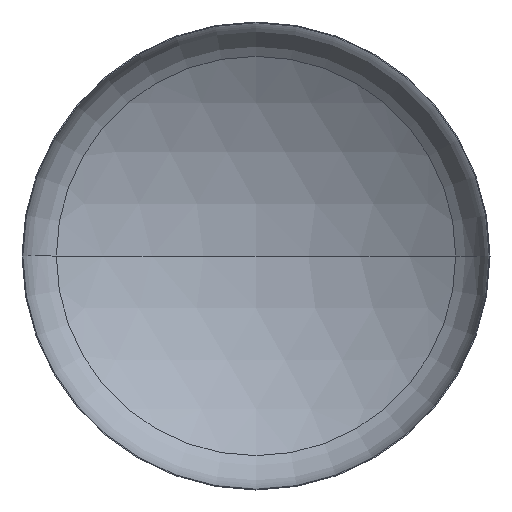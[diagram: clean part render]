
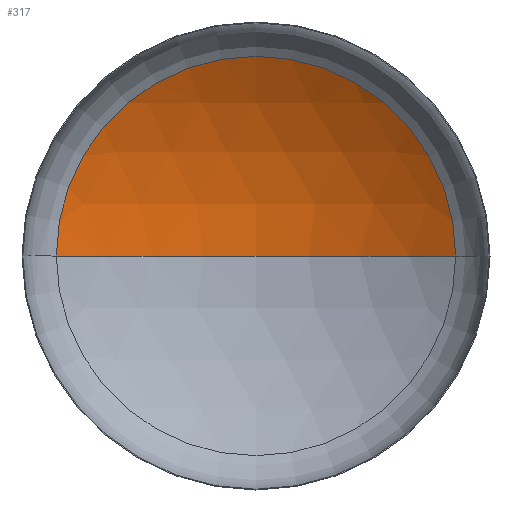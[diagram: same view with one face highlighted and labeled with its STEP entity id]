
A CAD part, front view. The second image highlights one B-rep face of the part: STEP entity #317.
In plain terms, the highlighted spherical face has radius 4400 mm.
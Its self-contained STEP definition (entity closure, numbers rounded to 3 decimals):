
#16 = CIRCLE ( 'NONE', #68, 4400. ) ;
#17 = AXIS2_PLACEMENT_3D ( 'NONE', #230, #58, #46 ) ;
#46 = DIRECTION ( 'NONE',  ( -1., 0., 0. ) ) ;
#54 = CARTESIAN_POINT ( 'NONE',  ( 0., -2977.193, 0. ) ) ;
#58 = DIRECTION ( 'NONE',  ( 0., 0., -1. ) ) ;
#60 = AXIS2_PLACEMENT_3D ( 'NONE', #334, #164, #367 ) ;
#68 = AXIS2_PLACEMENT_3D ( 'NONE', #54, #282, #92 ) ;
#70 = AXIS2_PLACEMENT_3D ( 'NONE', #366, #200, #395 ) ;
#92 = DIRECTION ( 'NONE',  ( -1., 0., 0. ) ) ;
#124 = SPHERICAL_SURFACE ( 'NONE', #17, 4400. ) ;
#127 = CARTESIAN_POINT ( 'NONE',  ( 2346.667, 744.79, 0. ) ) ;
#152 = VERTEX_POINT ( 'NONE', #168 ) ;
#161 = EDGE_CURVE ( 'NONE', #268, #152, #353, .T. ) ;
#164 = DIRECTION ( 'NONE',  ( 0., 0., 1. ) ) ;
#166 = EDGE_CURVE ( 'NONE', #370, #268, #16, .T. ) ;
#168 = CARTESIAN_POINT ( 'NONE',  ( -2346.667, 744.79, 0. ) ) ;
#171 = EDGE_CURVE ( 'NONE', #370, #152, #344, .T. ) ;
#200 = DIRECTION ( 'NONE',  ( 0., -1., 0. ) ) ;
#213 = EDGE_LOOP ( 'NONE', ( #252, #378, #261 ) ) ;
#230 = CARTESIAN_POINT ( 'NONE',  ( 0., -2977.193, 0. ) ) ;
#252 = ORIENTED_EDGE ( 'NONE', *, *, #171, .F. ) ;
#261 = ORIENTED_EDGE ( 'NONE', *, *, #161, .T. ) ;
#268 = VERTEX_POINT ( 'NONE', #127 ) ;
#270 = CARTESIAN_POINT ( 'NONE',  ( 0., 1422.807, 0. ) ) ;
#282 = DIRECTION ( 'NONE',  ( 0., 0., -1. ) ) ;
#317 = ADVANCED_FACE ( 'NONE', ( #342 ), #124, .F. ) ;
#334 = CARTESIAN_POINT ( 'NONE',  ( 0., -2977.193, 0. ) ) ;
#342 = FACE_OUTER_BOUND ( 'NONE', #213, .T. ) ;
#344 = CIRCLE ( 'NONE', #60, 4400. ) ;
#353 = CIRCLE ( 'NONE', #70, 2346.667 ) ;
#366 = CARTESIAN_POINT ( 'NONE',  ( 0., 744.79, 0. ) ) ;
#367 = DIRECTION ( 'NONE',  ( 1., 0., 0. ) ) ;
#370 = VERTEX_POINT ( 'NONE', #270 ) ;
#378 = ORIENTED_EDGE ( 'NONE', *, *, #166, .T. ) ;
#395 = DIRECTION ( 'NONE',  ( 1., 0., 0. ) ) ;
